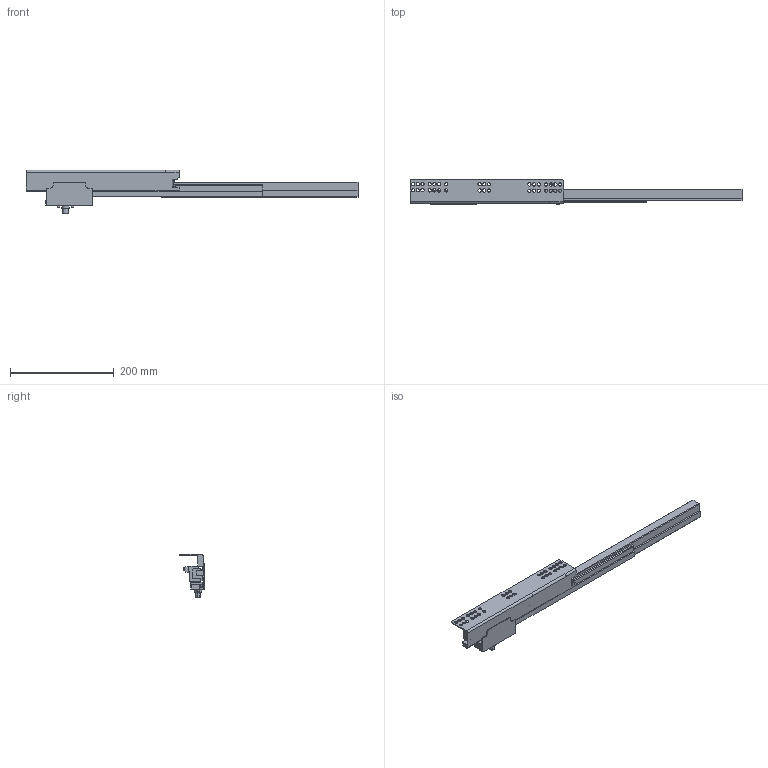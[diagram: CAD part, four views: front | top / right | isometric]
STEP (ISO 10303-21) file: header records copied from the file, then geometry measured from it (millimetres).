
FILE_DESCRIPTION (( 'STEP AP203' ), '1' );
FILE_NAME ('TF10400H-L-DTC3D-open.STEP', '2021-06-05T03:07:48', ( 'df' ), ( 'Microsoft' ), 'SwSTEP 2.0', 'SolidWorks 2018', '' );
FILE_SCHEMA (( 'CONFIG_CONTROL_DESIGN' ));
Length unit declared in the file: millimetre
Products named in the file (1): TF10400H-L-DTC3D-open
Bounding box: 639.3 x 48 x 83.3 mm (x, y, z)
Volume: 400838.6 mm3; surface area: 118225.1 mm2
Topology: 1 solids, 4 shells, 539 faces, 1394 edges, 862 vertices
Faces by surface type: cylinder 259, plane 169, bspline 104, sphere 4, torus 3
Entity records: 18372 total; most frequent: CARTESIAN_POINT 5389, ORIENTED_EDGE 2766, DIRECTION 2678, EDGE_CURVE 1383, AXIS2_PLACEMENT_3D 997, VERTEX_POINT 862, LINE 684, VECTOR 684
